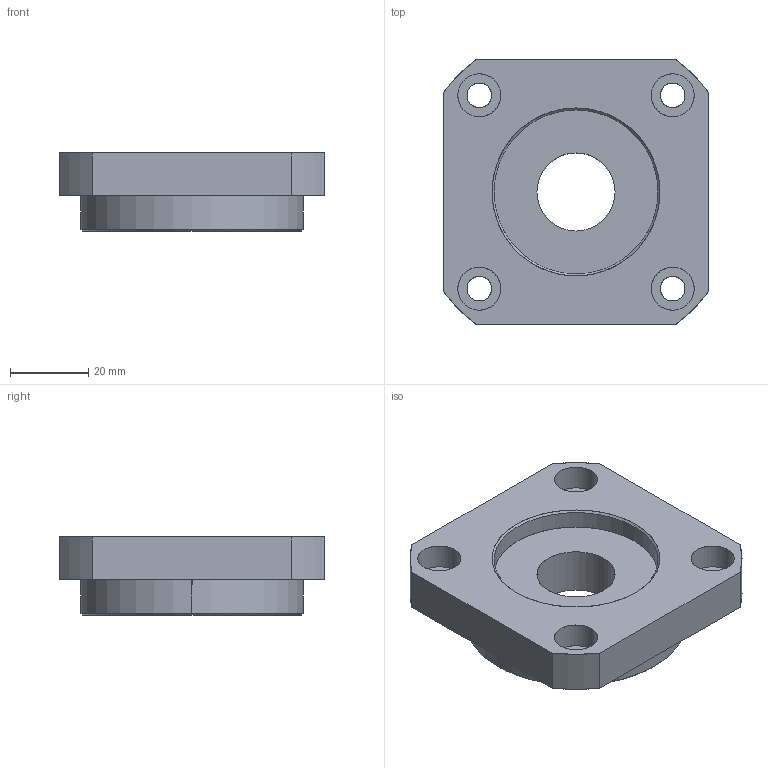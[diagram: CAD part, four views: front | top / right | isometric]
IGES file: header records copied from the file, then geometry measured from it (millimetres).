
Start section: SolidWorks IGES file using analytic representation for surfaces
Global section: file name: E:\同创达图纸\产品示意图\3D选型图\支撑座\FF系列\FF20.IGS; native system: SolidWorks 2012; preprocessor: SolidWorks 2012; author: gao; date: 130702.203731; units: millimetre
Bounding box: 68 x 68 x 20 mm (x, y, z)
Surface area: 15429.9 mm2 (no closed solid volume)
Topology: 0 solids, 0 shells, 47 faces, 1136 edges, 1136 vertices
Faces by surface type: revolution 34, bspline 13
